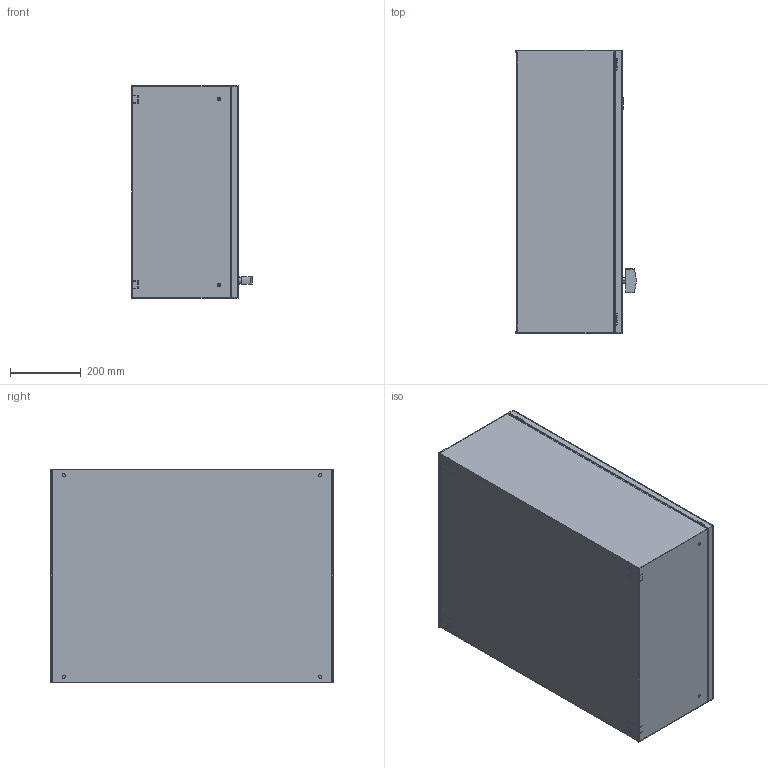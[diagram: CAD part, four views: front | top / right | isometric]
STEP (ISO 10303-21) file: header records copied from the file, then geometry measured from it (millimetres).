
FILE_DESCRIPTION(('STEP AP214'),'1');
FILE_NAME('coffret_035462_11.stp','2017-04-12T09:19:43',('TraceParts'),('TraceParts S.A.'),'Spatial InterOp 3D',' ',' ');
FILE_SCHEMA(('automotive_design'));
Length unit declared in the file: millimetre
Products named in the file (2): coffret_035462_11_1; coffret_035462_11_2
Bounding box: 340 x 800 x 600 mm (x, y, z)
Volume: 2787757.3 mm3; surface area: 3613801.3 mm2
Topology: 2 solids, 2 shells, 581 faces, 1599 edges, 1032 vertices
Faces by surface type: plane 285, cylinder 232, cone 64
Entity records: 19007 total; most frequent: CARTESIAN_POINT 3668, ORIENTED_EDGE 3198, DIRECTION 3191, EDGE_CURVE 1599, AXIS2_PLACEMENT_3D 1109, VERTEX_POINT 1032, LINE 973, VECTOR 973
